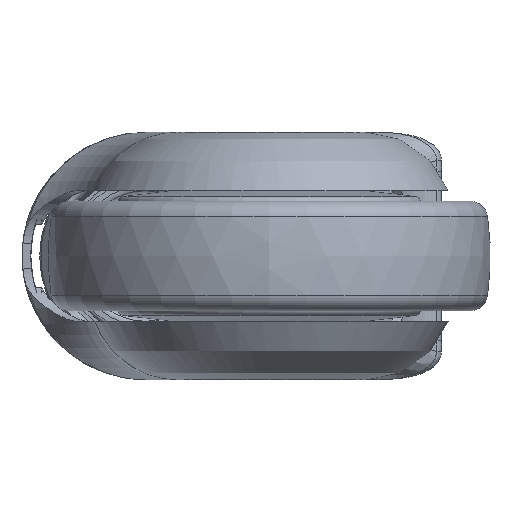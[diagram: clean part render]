
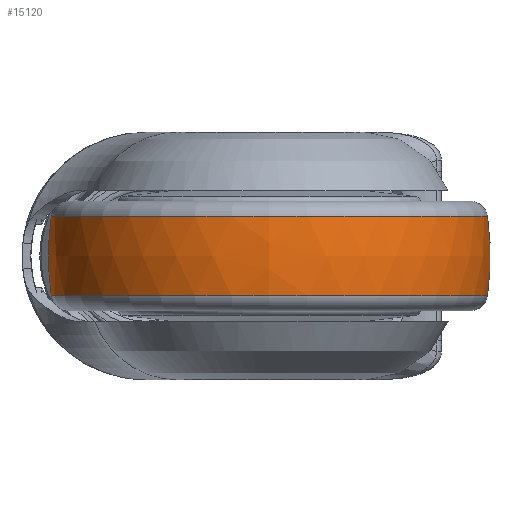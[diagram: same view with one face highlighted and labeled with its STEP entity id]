
A CAD part, front view. The second image highlights one B-rep face of the part: STEP entity #15120.
In plain terms, the highlighted free-form (B-spline) face has degree [3, 3] with [7, 4] control points.
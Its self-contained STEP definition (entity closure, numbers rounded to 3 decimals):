
#14571=CARTESIAN_POINT('',(11.2,0.,0.));
#14572=DIRECTION('',(-1.,0.,0.));
#14573=DIRECTION('',(0.,1.,0.));
#14574=AXIS2_PLACEMENT_3D('',#14571,#14572,#14573);
#14576=CARTESIAN_POINT('',(0.,-17.482,0.));
#14577=DIRECTION('',(0.,0.,1.));
#14578=DIRECTION('',(0.14,0.99,0.));
#14579=AXIS2_PLACEMENT_3D('',#14576,#14577,#14578);
#14586=CARTESIAN_POINT('',(0.,17.482,0.));
#14587=DIRECTION('',(0.,0.,-1.));
#14588=DIRECTION('',(0.14,-0.99,0.));
#14589=AXIS2_PLACEMENT_3D('',#14586,#14587,#14588);
#14798=CARTESIAN_POINT('',(-11.2,0.,0.));
#14799=DIRECTION('',(-1.,0.,0.));
#14800=DIRECTION('',(0.,1.,0.));
#14801=AXIS2_PLACEMENT_3D('',#14798,#14799,#14800);
#14985=CARTESIAN_POINT('',(11.2,61.73,0.));
#14986=CARTESIAN_POINT('',(-11.2,61.73,0.));
#14987=VERTEX_POINT('',#14985);
#14988=VERTEX_POINT('',#14986);
#15033=CARTESIAN_POINT('',(11.2,-61.73,
0.));
#15034=CARTESIAN_POINT('',(-11.2,-61.73,
0.));
#15035=VERTEX_POINT('',#15033);
#15036=VERTEX_POINT('',#15034);
#15081=CARTESIAN_POINT('',(11.645,61.544,3.872));
#15082=CARTESIAN_POINT('',(3.909,62.68,3.943));
#15083=CARTESIAN_POINT('',(-3.909,62.68,
3.943));
#15084=CARTESIAN_POINT('',(-11.645,61.544,
3.872));
#15085=CARTESIAN_POINT('',(11.645,63.927,
-34.002));
#15086=CARTESIAN_POINT('',(3.909,65.107,
-34.63));
#15087=CARTESIAN_POINT('',(-3.909,65.107,
-34.63));
#15088=CARTESIAN_POINT('',(-11.645,63.927,
-34.002));
#15089=CARTESIAN_POINT('',(11.645,37.949,
-61.666));
#15090=CARTESIAN_POINT('',(3.909,38.649,
-62.804));
#15091=CARTESIAN_POINT('',(-3.909,38.649,
-62.804));
#15092=CARTESIAN_POINT('',(-11.645,37.949,
-61.666));
#15093=CARTESIAN_POINT('',(11.645,0.,-61.666));
#15094=CARTESIAN_POINT('',(3.909,0.,-62.804));
#15095=CARTESIAN_POINT('',(-3.909,0.,-62.804));
#15096=CARTESIAN_POINT('',(-11.645,0.,
-61.666));
#15097=CARTESIAN_POINT('',(11.645,-37.949,
-61.666));
#15098=CARTESIAN_POINT('',(3.909,-38.649,
-62.804));
#15099=CARTESIAN_POINT('',(-3.909,-38.649,
-62.804));
#15100=CARTESIAN_POINT('',(-11.645,-37.949,
-61.666));
#15101=CARTESIAN_POINT('',(11.645,-63.927,
-34.002));
#15102=CARTESIAN_POINT('',(3.909,-65.107,
-34.63));
#15103=CARTESIAN_POINT('',(-3.909,-65.107,
-34.63));
#15104=CARTESIAN_POINT('',(-11.645,-63.927,
-34.002));
#15105=CARTESIAN_POINT('',(11.645,-61.544,
3.872));
#15106=CARTESIAN_POINT('',(3.909,-62.68,
3.943));
#15107=CARTESIAN_POINT('',(-3.909,-62.68,
3.943));
#15108=CARTESIAN_POINT('',(-11.645,-61.544,
3.872));
#15109=(BOUNDED_SURFACE()B_SPLINE_SURFACE(3,3,((#15081,#15082,#15083,#15084),(
#15085,#15086,#15087,#15088),(#15089,#15090,#15091,#15092),(#15093,#15094,
#15095,#15096),(#15097,#15098,#15099,#15100),(#15101,#15102,#15103,#15104),(
#15105,#15106,#15107,#15108)),.UNSPECIFIED.,.F.,.F.,.F.)B_SPLINE_SURFACE_WITH_KNOTS((4,3,4),(4,4),(0.,1.,2.),(0.,1.),.UNSPECIFIED.)GEOMETRIC_REPRESENTATION_ITEM()RATIONAL_B_SPLINE_SURFACE(((1.194,1.185,
1.185,1.194),(0.943,0.936,
0.936,0.943),(0.943,0.936,
0.936,0.943),(1.194,1.185,
1.185,1.194),(0.943,0.936,
0.936,0.943),(0.943,0.936,
0.936,0.943),(1.194,1.185,
1.185,1.194)))REPRESENTATION_ITEM('')SURFACE());
#15111=ORIENTED_EDGE('',*,*,#15110,.T.);
#15113=ORIENTED_EDGE('',*,*,#15112,.T.);
#15115=ORIENTED_EDGE('',*,*,#15114,.F.);
#15117=ORIENTED_EDGE('',*,*,#15116,.F.);
#15118=EDGE_LOOP('',(#15111,#15113,#15115,#15117));
#15119=FACE_OUTER_BOUND('',#15118,.F.);
#14575=CIRCLE('',#14574,61.73);
#14580=CIRCLE('',#14579,80.);
#14590=CIRCLE('',#14589,80.);
#14802=CIRCLE('',#14801,61.73);
#15110=EDGE_CURVE('',#14987,#14988,#14580,.T.);
#15112=EDGE_CURVE('',#14988,#15036,#14802,.T.);
#15114=EDGE_CURVE('',#15035,#15036,#14590,.T.);
#15116=EDGE_CURVE('',#14987,#15035,#14575,.T.);
#15120=ADVANCED_FACE('',(#15119),#15109,.T.);
